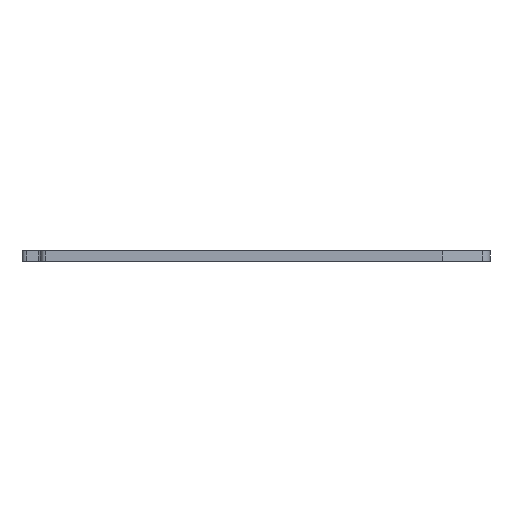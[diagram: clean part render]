
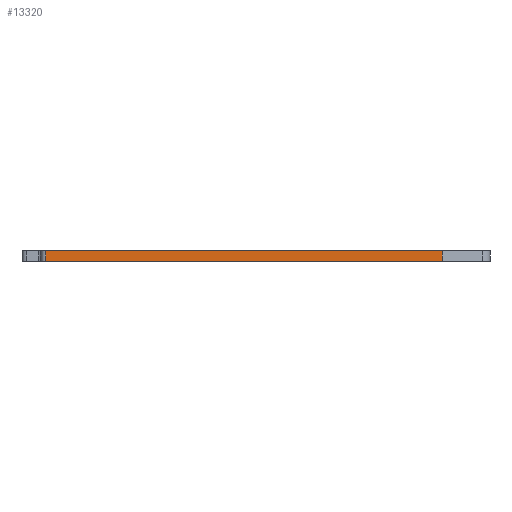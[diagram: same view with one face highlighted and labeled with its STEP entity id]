
A CAD part, front view. The second image highlights one B-rep face of the part: STEP entity #13320.
In plain terms, the highlighted planar face has unit normal (0, -1, 0).
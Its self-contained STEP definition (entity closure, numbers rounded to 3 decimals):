
#1260=CARTESIAN_POINT('',(14.426,-38.2,
56.516));
#1270=VERTEX_POINT('',#1260);
#1300=CARTESIAN_POINT('',(-23.364,-38.2,56.516)
);
#1310=DIRECTION('',(1.,0.,0.));
#1320=VECTOR('',#1310,1.);
#1330=LINE('',#1300,#1320);
#1340=CARTESIAN_POINT('',(-69.871,-38.2,
56.516));
#1350=VERTEX_POINT('',#1340);
#1360=EDGE_CURVE('',#1350,#1270,#1330,.T.);
#5540=CARTESIAN_POINT('',(-69.871,-38.2,
54.316));
#5550=VERTEX_POINT('',#5540);
#5580=CARTESIAN_POINT('',(-23.364,-38.2,54.316)
);
#5590=DIRECTION('',(1.,0.,0.));
#5600=VECTOR('',#5590,1.);
#5610=LINE('',#5580,#5600);
#5620=CARTESIAN_POINT('',(14.426,-38.2,
54.316));
#5630=VERTEX_POINT('',#5620);
#5640=EDGE_CURVE('',#5550,#5630,#5610,.T.);
#13060=CARTESIAN_POINT('',(14.426,-38.2,
56.516));
#13070=DIRECTION('',(0.,0.,-1.));
#13080=VECTOR('',#13070,1.);
#13090=LINE('',#13060,#13080);
#13100=EDGE_CURVE('',#1270,#5630,#13090,.T.);
#13160=CARTESIAN_POINT('',(-69.871,-38.2,
56.516));
#13170=DIRECTION('',(0.,-1.,0.));
#13180=DIRECTION('',(-1.,0.,0.));
#13190=AXIS2_PLACEMENT_3D('',#13160,#13170,#13180);
#13200=PLANE('',#13190);
#13210=ORIENTED_EDGE('',*,*,#13100,.F.);
#13220=ORIENTED_EDGE('',*,*,#5640,.T.);
#13230=CARTESIAN_POINT('',(-69.871,-38.2,
56.516));
#13240=DIRECTION('',(0.,0.,-1.));
#13250=VECTOR('',#13240,1.);
#13260=LINE('',#13230,#13250);
#13270=EDGE_CURVE('',#1350,#5550,#13260,.T.);
#13280=ORIENTED_EDGE('',*,*,#13270,.T.);
#13290=ORIENTED_EDGE('',*,*,#1360,.F.);
#13300=EDGE_LOOP('',(#13290,#13280,#13220,#13210));
#13310=FACE_OUTER_BOUND('',#13300,.T.);
#13320=ADVANCED_FACE('',(#13310),#13200,.T.);
